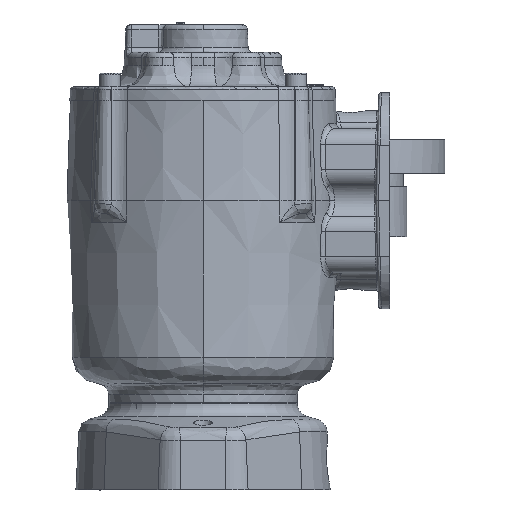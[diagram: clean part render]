
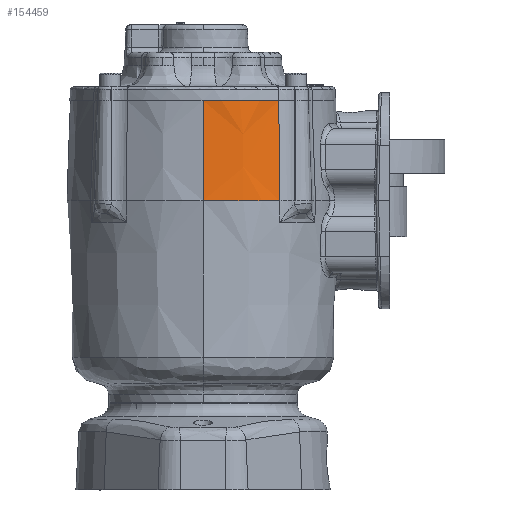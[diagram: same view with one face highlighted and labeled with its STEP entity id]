
A CAD part, left-side view. The second image highlights one B-rep face of the part: STEP entity #154459.
In plain terms, the highlighted conical face has half-angle 2 degrees and reference radius 78.232 mm.
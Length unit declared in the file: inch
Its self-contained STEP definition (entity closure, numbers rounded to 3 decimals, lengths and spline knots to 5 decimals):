
#800 = DIRECTION ( 'NONE',  ( -1., 0., 0. ) ) ;
#1730 = CONICAL_SURFACE ( 'NONE', #72254, 3.08, 0.035 ) ;
#3657 = CARTESIAN_POINT ( 'NONE',  ( -3.58087, 0.40873, 2.61184 ) ) ;
#5217 = CARTESIAN_POINT ( 'NONE',  ( -3.5037, 0.27743, 2.61184 ) ) ;
#6523 = ORIENTED_EDGE ( 'NONE', *, *, #106598, .T. ) ;
#13580 = CARTESIAN_POINT ( 'NONE',  ( -3.41704, 0.15272, 2.61184 ) ) ;
#15440 = ORIENTED_EDGE ( 'NONE', *, *, #75271, .T. ) ;
#15560 = CARTESIAN_POINT ( 'NONE',  ( -4.03267, 1.86514, 0.34734 ) ) ;
#17067 = CARTESIAN_POINT ( 'NONE',  ( -3.41704, 0.15272, 2.61184 ) ) ;
#18084 = CARTESIAN_POINT ( 'NONE',  ( -0.95267, 1.86514, 0.34734 ) ) ;
#21362 = FACE_OUTER_BOUND ( 'NONE', #93052, .T. ) ;
#22958 = CARTESIAN_POINT ( 'NONE',  ( -3.49656, 0.12877, 0.34734 ) ) ;
#24560 = B_SPLINE_CURVE_WITH_KNOTS ( 'NONE', 3,
 ( #36421, #121499, #145957, #13580 ),
 .UNSPECIFIED., .F., .F.,
 ( 4, 4 ),
 ( 0., 1. ),
 .UNSPECIFIED. ) ;
#31981 = EDGE_CURVE ( 'NONE', #134284, #101982, #60586, .T. ) ;
#36421 = CARTESIAN_POINT ( 'NONE',  ( -3.49656, 0.12877, 0.34734 ) ) ;
#36588 = ORIENTED_EDGE ( 'NONE', *, *, #31981, .T. ) ;
#53290 = CARTESIAN_POINT ( 'NONE',  ( -3.86172, 1.11281, 2.61184 ) ) ;
#54303 = DIRECTION ( 'NONE',  ( 0., 0., -1. ) ) ;
#55139 = LINE ( 'NONE', #137902, #112088 ) ;
#60586 = B_SPLINE_CURVE_WITH_KNOTS ( 'NONE', 3,
 ( #17067, #5217, #3657, #65118, #113149, #53290, #101342, #90310, #137607, #138386 ),
 .UNSPECIFIED., .F., .F.,
 ( 4, 2, 2, 2, 4 ),
 ( 0., 0.25, 0.5, 0.75, 1. ),
 .UNSPECIFIED. ) ;
#63500 = CARTESIAN_POINT ( 'NONE',  ( -3.95359, 1.86514, 2.61184 ) ) ;
#65118 = CARTESIAN_POINT ( 'NONE',  ( -3.71447, 0.6815, 2.61184 ) ) ;
#72254 = AXIS2_PLACEMENT_3D ( 'NONE', #117449, #121341, #800 ) ;
#75271 = EDGE_CURVE ( 'NONE', #101982, #104998, #55139, .T. ) ;
#83562 = EDGE_CURVE ( 'NONE', #98633, #104998, #148022, .T. ) ;
#90310 = CARTESIAN_POINT ( 'NONE',  ( -3.94204, 1.56141, 2.61184 ) ) ;
#93052 = EDGE_LOOP ( 'NONE', ( #36588, #15440, #155084, #6523 ) ) ;
#98633 = VERTEX_POINT ( 'NONE', #22958 ) ;
#101342 = CARTESIAN_POINT ( 'NONE',  ( -3.8961, 1.26118, 2.61184 ) ) ;
#101982 = VERTEX_POINT ( 'NONE', #63500 ) ;
#102361 = DIRECTION ( 'NONE',  ( 1., 0., 0. ) ) ;
#103193 = DIRECTION ( 'NONE',  ( -0.035, 0., -0.999 ) ) ;
#104998 = VERTEX_POINT ( 'NONE', #15560 ) ;
#106598 = EDGE_CURVE ( 'NONE', #98633, #134284, #24560, .T. ) ;
#112088 = VECTOR ( 'NONE', #103193, 39.37008 ) ;
#113149 = CARTESIAN_POINT ( 'NONE',  ( -3.7709, 0.82297, 2.61184 ) ) ;
#117449 = CARTESIAN_POINT ( 'NONE',  ( -0.95267, 1.86514, 0.34734 ) ) ;
#118706 = CARTESIAN_POINT ( 'NONE',  ( -3.41704, 0.15272, 2.61184 ) ) ;
#121341 = DIRECTION ( 'NONE',  ( 0., 0., -1. ) ) ;
#121499 = CARTESIAN_POINT ( 'NONE',  ( -3.46942, 0.13709, 1.12355 ) ) ;
#125258 = AXIS2_PLACEMENT_3D ( 'NONE', #18084, #54303, #102361 ) ;
#134284 = VERTEX_POINT ( 'NONE', #118706 ) ;
#137607 = CARTESIAN_POINT ( 'NONE',  ( -3.95359, 1.71328, 2.61184 ) ) ;
#137902 = CARTESIAN_POINT ( 'NONE',  ( -4.03267, 1.86514, 0.34734 ) ) ;
#138386 = CARTESIAN_POINT ( 'NONE',  ( -3.95359, 1.86514, 2.61184 ) ) ;
#145957 = CARTESIAN_POINT ( 'NONE',  ( -3.44291, 0.14507, 1.87838 ) ) ;
#148022 = CIRCLE ( 'NONE', #125258, 3.08 ) ;
#154459 = ADVANCED_FACE ( 'NONE', ( #21362 ), #1730, .T. ) ;
#155084 = ORIENTED_EDGE ( 'NONE', *, *, #83562, .F. ) ;
